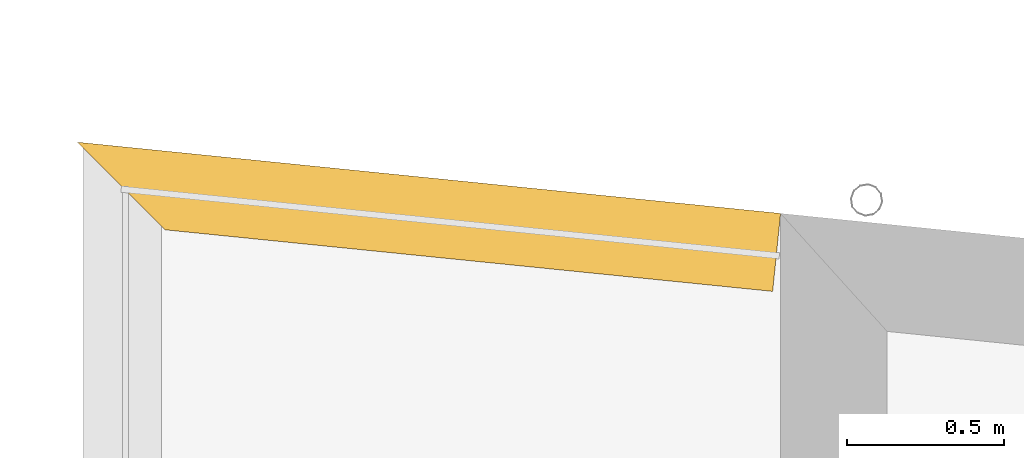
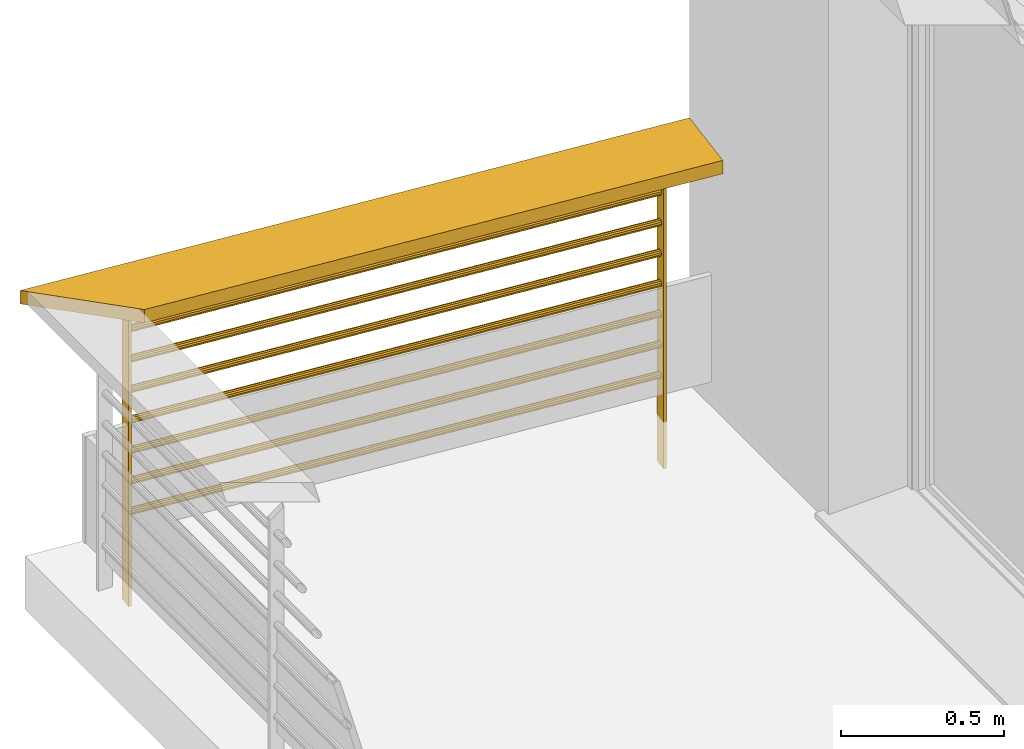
# One storey, part 106 of 164: 1 railing.
"""IFC2X3 building model written with IfcOpenShell, lengths in millimetres."""

from ifc_helpers import new_model, entity, si_unit, converted_unit, derived_unit, money_unit, direction, frame, origin_with_axes, place, context, subcontext, project, spatial, faceted_brep, type_object, element, save


model = new_model("IFC2X3")

# Units and contexts
model_context = context("Model", 3, precision=0.01, world=origin_with_axes(), true_north=direction((0.0, 1.0)))
body_context = subcontext(model_context, "Body", "Model", "MODEL_VIEW")
ifc_project = project(units=[si_unit("LENGTHUNIT", "METRE", prefix="MILLI"), si_unit("AREAUNIT", "SQUARE_METRE"), si_unit("VOLUMEUNIT", "CUBIC_METRE"), converted_unit("PLANEANGLEUNIT", "DEGREE", entity("IfcPlaneAngleMeasure", 0.0174532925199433), si_unit("PLANEANGLEUNIT", "RADIAN"), dimensions=[0, 0, 0, 0, 0, 0, 0]), money_unit("USD"), converted_unit("TIMEUNIT", "Year", entity("IfcTimeMeasure", 31557600.0), si_unit("TIMEUNIT", "SECOND"), dimensions=[0, 0, 1, 0, 0, 0, 0]), si_unit("MASSUNIT", "GRAM", prefix="KILO"), si_unit("THERMODYNAMICTEMPERATUREUNIT", "DEGREE_CELSIUS"), si_unit("LUMINOUSINTENSITYUNIT", "LUMEN"), si_unit("ENERGYUNIT", "JOULE", prefix="MEGA"), derived_unit("THERMALCONDUCTANCEUNIT", [(si_unit("POWERUNIT", "WATT"), 1), (si_unit("LENGTHUNIT", "METRE"), -1), (si_unit("THERMODYNAMICTEMPERATUREUNIT", "KELVIN"), -1)]), derived_unit("SPECIFICHEATCAPACITYUNIT", [(si_unit("ENERGYUNIT", "JOULE"), 1), (si_unit("MASSUNIT", "GRAM", prefix="KILO"), -1), (si_unit("THERMODYNAMICTEMPERATUREUNIT", "KELVIN"), -1)]), derived_unit("MASSDENSITYUNIT", [(si_unit("MASSUNIT", "GRAM", prefix="KILO"), 1), (si_unit("VOLUMEUNIT", "CUBIC_METRE"), -1)])], contexts=[model_context])

# Site, building, storey
site_placement = place(None, origin_with_axes())
site = spatial("IfcSite", under=ifc_project, at=site_placement, Name="Site", CompositionType="ELEMENT")
building_placement = place(site_placement, origin_with_axes())
building = spatial("IfcBuilding", under=site, at=building_placement, Name="Bâtiment", CompositionType="ELEMENT")
storey_placement = place(building_placement, frame((0.0, 0.0, 5750.0), z_axis=(0.0, 0.0, 1.0), x_axis=(1.0, 0.0, 0.0)))
storey = spatial("IfcBuildingStorey", under=building, at=storey_placement, Name="Etage1", CompositionType="ELEMENT", Elevation=5750.0)

# Railing
railing_type = type_object("IfcRailingType", Name="Cadre avec câble 01 20", PredefinedType="NOTDEFINED")
railing_placement = place(storey_placement, frame((2216031.546231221, -603908.0016091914, 0.0), z_axis=(0.0, 0.0, 1.0), x_axis=(0.9949030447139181, -0.1008361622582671, 0.0)))
element("IfcRailing", 1, at=railing_placement, inside=storey, type_object=railing_type, Name="Obj.-002", PredefinedType="NOTDEFINED", context=body_context, shape_type="Brep", body=[
    faceted_brep([(153.1959225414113, -125.0, 950.0), (-153.1959225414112, 125.0, 950.0), (2100.790227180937, 125.0, 950.0), (2100.790227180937, -125.0, 950.0), (153.1959225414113, -125.0, 1000.0), (-153.1959225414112, 125.0, 1000.0), (2100.790227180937, 125.0, 1000.0), (2100.790227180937, -125.0, 1000.0)], [[[0, 1, 2, 3]], [[1, 0, 4, 5]], [[1, 5, 6, 2]], [[3, 2, 6, 7]], [[0, 3, 7, 4]], [[5, 4, 7, 6]]]),
    faceted_brep([(145.0, -25.0, -176.0), (155.0, -25.0, -176.0), (155.0, -25.0, 950.0), (145.0, -25.0, 950.0), (145.0, 25.0, -176.0), (155.0, 25.0, -176.0), (155.0, 25.0, 950.0), (145.0, 25.0, 950.0)], [[[0, 1, 2, 3]], [[0, 4, 5, 1]], [[1, 5, 6, 2]], [[3, 2, 6, 7]], [[4, 0, 3, 7]], [[5, 4, 7, 6]]]),
    faceted_brep([(1945.790227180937, -25.0, -176.0), (1955.790227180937, -25.0, -176.0), (1955.790227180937, -25.0, 950.0), (1945.790227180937, -25.0, 950.0), (1945.790227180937, 25.0, -176.0), (1955.790227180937, 25.0, -176.0), (1955.790227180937, 25.0, 950.0), (1945.790227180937, 25.0, 950.0)], [[[0, 1, 2, 3]], [[0, 4, 5, 1]], [[1, 5, 6, 2]], [[3, 2, 6, 7]], [[4, 0, 3, 7]], [[5, 4, 7, 6]]]),
    faceted_brep([(155.0, 10.82531754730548, 156.25), (155.0, 12.5, 162.5), (1945.790227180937, 12.5, 162.5000000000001), (1945.790227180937, 10.82531754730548, 156.2500000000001), (155.0, 10.82531754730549, 168.75), (155.0, 6.249999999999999, 151.6746824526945), (155.0, 0.0, 150.0), (155.0, -6.250000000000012, 151.6746824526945), (155.0, -10.82531754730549, 156.25), (155.0, -12.5, 162.5), (155.0, -10.82531754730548, 168.75), (155.0, -6.249999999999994, 173.3253175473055), (155.0, 0.0, 175.0), (155.0, 6.250000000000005, 173.3253175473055), (1945.790227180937, 10.82531754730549, 168.7500000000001), (1945.790227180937, 6.250000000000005, 173.3253175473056), (1945.790227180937, 0.0, 175.0000000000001), (1945.790227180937, -6.249999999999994, 173.3253175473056), (1945.790227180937, -10.82531754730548, 168.7500000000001), (1945.790227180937, -12.5, 162.5000000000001), (1945.790227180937, -10.82531754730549, 156.2500000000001), (1945.790227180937, -6.250000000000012, 151.6746824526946), (1945.790227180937, 0.0, 150.0000000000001), (1945.790227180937, 6.249999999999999, 151.6746824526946)], [[[0, 1, 2, 3]], [[4, 1, 0, 5, 6, 7, 8, 9, 10, 11, 12, 13]], [[1, 4, 14, 2]], [[3, 2, 14, 15, 16, 17, 18, 19, 20, 21, 22, 23]], [[5, 0, 3, 23]], [[6, 5, 23, 22]], [[7, 6, 22, 21]], [[8, 7, 21, 20]], [[9, 8, 20, 19]], [[10, 9, 19, 18]], [[11, 10, 18, 17]], [[12, 11, 17, 16]], [[13, 12, 16, 15]], [[4, 13, 15, 14]]]),
    faceted_brep([(155.0, 10.82531754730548, 270.5357142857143), (155.0, 12.5, 276.7857142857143), (1945.790227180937, 12.5, 276.7857142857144), (1945.790227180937, 10.82531754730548, 270.5357142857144), (155.0, 10.82531754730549, 283.0357142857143), (155.0, 6.249999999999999, 265.9603967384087), (155.0, 0.0, 264.2857142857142), (155.0, -6.250000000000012, 265.9603967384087), (155.0, -10.82531754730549, 270.5357142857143), (155.0, -12.5, 276.7857142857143), (155.0, -10.82531754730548, 283.0357142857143), (155.0, -6.249999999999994, 287.6110318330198), (155.0, 0.0, 289.2857142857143), (155.0, 6.250000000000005, 287.6110318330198), (1945.790227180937, 10.82531754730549, 283.0357142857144), (1945.790227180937, 6.250000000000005, 287.6110318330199), (1945.790227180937, 0.0, 289.2857142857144), (1945.790227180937, -6.249999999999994, 287.6110318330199), (1945.790227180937, -10.82531754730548, 283.0357142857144), (1945.790227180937, -12.5, 276.7857142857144), (1945.790227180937, -10.82531754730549, 270.5357142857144), (1945.790227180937, -6.250000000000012, 265.9603967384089), (1945.790227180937, 0.0, 264.2857142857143), (1945.790227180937, 6.249999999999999, 265.9603967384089)], [[[0, 1, 2, 3]], [[4, 1, 0, 5, 6, 7, 8, 9, 10, 11, 12, 13]], [[1, 4, 14, 2]], [[3, 2, 14, 15, 16, 17, 18, 19, 20, 21, 22, 23]], [[5, 0, 3, 23]], [[6, 5, 23, 22]], [[7, 6, 22, 21]], [[8, 7, 21, 20]], [[9, 8, 20, 19]], [[10, 9, 19, 18]], [[11, 10, 18, 17]], [[12, 11, 17, 16]], [[13, 12, 16, 15]], [[4, 13, 15, 14]]]),
    faceted_brep([(155.0, 10.82531754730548, 384.8214285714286), (155.0, 12.5, 391.0714285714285), (1945.790227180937, 12.5, 391.0714285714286), (1945.790227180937, 10.82531754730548, 384.8214285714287), (155.0, 10.82531754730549, 397.3214285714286), (155.0, 6.249999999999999, 380.2461110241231), (155.0, 0.0, 378.5714285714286), (155.0, -6.250000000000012, 380.2461110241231), (155.0, -10.82531754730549, 384.8214285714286), (155.0, -12.5, 391.0714285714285), (155.0, -10.82531754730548, 397.3214285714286), (155.0, -6.249999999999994, 401.896746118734), (155.0, 0.0, 403.5714285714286), (155.0, 6.250000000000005, 401.896746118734), (1945.790227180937, 10.82531754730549, 397.3214285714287), (1945.790227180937, 6.250000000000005, 401.8967461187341), (1945.790227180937, 0.0, 403.5714285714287), (1945.790227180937, -6.249999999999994, 401.8967461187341), (1945.790227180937, -10.82531754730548, 397.3214285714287), (1945.790227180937, -12.5, 391.0714285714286), (1945.790227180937, -10.82531754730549, 384.8214285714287), (1945.790227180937, -6.250000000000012, 380.2461110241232), (1945.790227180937, 0.0, 378.5714285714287), (1945.790227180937, 6.249999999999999, 380.2461110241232)], [[[0, 1, 2, 3]], [[4, 1, 0, 5, 6, 7, 8, 9, 10, 11, 12, 13]], [[1, 4, 14, 2]], [[3, 2, 14, 15, 16, 17, 18, 19, 20, 21, 22, 23]], [[5, 0, 3, 23]], [[6, 5, 23, 22]], [[7, 6, 22, 21]], [[8, 7, 21, 20]], [[9, 8, 20, 19]], [[10, 9, 19, 18]], [[11, 10, 18, 17]], [[12, 11, 17, 16]], [[13, 12, 16, 15]], [[4, 13, 15, 14]]]),
    faceted_brep([(155.0, 10.82531754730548, 499.1071428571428), (155.0, 12.5, 505.3571428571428), (1945.790227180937, 12.5, 505.3571428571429), (1945.790227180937, 10.82531754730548, 499.1071428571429), (155.0, 10.82531754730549, 511.6071428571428), (155.0, 6.249999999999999, 494.5318253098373), (155.0, 0.0, 492.8571428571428), (155.0, -6.250000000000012, 494.5318253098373), (155.0, -10.82531754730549, 499.1071428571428), (155.0, -12.5, 505.3571428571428), (155.0, -10.82531754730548, 511.6071428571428), (155.0, -6.249999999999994, 516.1824604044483), (155.0, 0.0, 517.8571428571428), (155.0, 6.250000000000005, 516.1824604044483), (1945.790227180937, 10.82531754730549, 511.6071428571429), (1945.790227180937, 6.250000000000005, 516.1824604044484), (1945.790227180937, 0.0, 517.8571428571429), (1945.790227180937, -6.249999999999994, 516.1824604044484), (1945.790227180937, -10.82531754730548, 511.6071428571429), (1945.790227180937, -12.5, 505.3571428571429), (1945.790227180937, -10.82531754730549, 499.1071428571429), (1945.790227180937, -6.250000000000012, 494.5318253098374), (1945.790227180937, 0.0, 492.8571428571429), (1945.790227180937, 6.249999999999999, 494.5318253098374)], [[[0, 1, 2, 3]], [[4, 1, 0, 5, 6, 7, 8, 9, 10, 11, 12, 13]], [[1, 4, 14, 2]], [[3, 2, 14, 15, 16, 17, 18, 19, 20, 21, 22, 23]], [[5, 0, 3, 23]], [[6, 5, 23, 22]], [[7, 6, 22, 21]], [[8, 7, 21, 20]], [[9, 8, 20, 19]], [[10, 9, 19, 18]], [[11, 10, 18, 17]], [[12, 11, 17, 16]], [[13, 12, 16, 15]], [[4, 13, 15, 14]]]),
    faceted_brep([(155.0, 10.82531754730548, 613.3928571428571), (155.0, 12.5, 619.642857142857), (1945.790227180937, 12.5, 619.6428571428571), (1945.790227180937, 10.82531754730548, 613.3928571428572), (155.0, 10.82531754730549, 625.892857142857), (155.0, 6.249999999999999, 608.8175395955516), (155.0, 0.0, 607.1428571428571), (155.0, -6.250000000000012, 608.8175395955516), (155.0, -10.82531754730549, 613.3928571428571), (155.0, -12.5, 619.642857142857), (155.0, -10.82531754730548, 625.892857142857), (155.0, -6.249999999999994, 630.4681746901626), (155.0, 0.0, 632.1428571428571), (155.0, 6.250000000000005, 630.4681746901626), (1945.790227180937, 10.82531754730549, 625.8928571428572), (1945.790227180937, 6.250000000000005, 630.4681746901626), (1945.790227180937, 0.0, 632.1428571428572), (1945.790227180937, -6.249999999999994, 630.4681746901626), (1945.790227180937, -10.82531754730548, 625.8928571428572), (1945.790227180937, -12.5, 619.6428571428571), (1945.790227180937, -10.82531754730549, 613.3928571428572), (1945.790227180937, -6.250000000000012, 608.8175395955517), (1945.790227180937, 0.0, 607.1428571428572), (1945.790227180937, 6.249999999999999, 608.8175395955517)], [[[0, 1, 2, 3]], [[4, 1, 0, 5, 6, 7, 8, 9, 10, 11, 12, 13]], [[1, 4, 14, 2]], [[3, 2, 14, 15, 16, 17, 18, 19, 20, 21, 22, 23]], [[5, 0, 3, 23]], [[6, 5, 23, 22]], [[7, 6, 22, 21]], [[8, 7, 21, 20]], [[9, 8, 20, 19]], [[10, 9, 19, 18]], [[11, 10, 18, 17]], [[12, 11, 17, 16]], [[13, 12, 16, 15]], [[4, 13, 15, 14]]]),
    faceted_brep([(155.0, 10.82531754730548, 727.6785714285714), (155.0, 12.5, 733.9285714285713), (1945.790227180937, 12.5, 733.9285714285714), (1945.790227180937, 10.82531754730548, 727.6785714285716), (155.0, 10.82531754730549, 740.1785714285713), (155.0, 6.249999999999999, 723.1032538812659), (155.0, 0.0, 721.4285714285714), (155.0, -6.250000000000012, 723.1032538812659), (155.0, -10.82531754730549, 727.6785714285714), (155.0, -12.5, 733.9285714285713), (155.0, -10.82531754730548, 740.1785714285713), (155.0, -6.249999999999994, 744.7538889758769), (155.0, 0.0, 746.4285714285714), (155.0, 6.250000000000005, 744.7538889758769), (1945.790227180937, 10.82531754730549, 740.1785714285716), (1945.790227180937, 6.250000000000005, 744.753888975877), (1945.790227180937, 0.0, 746.4285714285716), (1945.790227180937, -6.249999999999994, 744.753888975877), (1945.790227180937, -10.82531754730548, 740.1785714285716), (1945.790227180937, -12.5, 733.9285714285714), (1945.790227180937, -10.82531754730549, 727.6785714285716), (1945.790227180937, -6.250000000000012, 723.103253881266), (1945.790227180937, 0.0, 721.4285714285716), (1945.790227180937, 6.249999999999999, 723.103253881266)], [[[0, 1, 2, 3]], [[4, 1, 0, 5, 6, 7, 8, 9, 10, 11, 12, 13]], [[1, 4, 14, 2]], [[3, 2, 14, 15, 16, 17, 18, 19, 20, 21, 22, 23]], [[5, 0, 3, 23]], [[6, 5, 23, 22]], [[7, 6, 22, 21]], [[8, 7, 21, 20]], [[9, 8, 20, 19]], [[10, 9, 19, 18]], [[11, 10, 18, 17]], [[12, 11, 17, 16]], [[13, 12, 16, 15]], [[4, 13, 15, 14]]]),
    faceted_brep([(155.0, 10.82531754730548, 841.9642857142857), (155.0, 12.5, 848.2142857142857), (1945.790227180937, 12.5, 848.2142857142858), (1945.790227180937, 10.82531754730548, 841.9642857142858), (155.0, 10.82531754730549, 854.4642857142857), (155.0, 6.249999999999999, 837.3889681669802), (155.0, 0.0, 835.7142857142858), (155.0, -6.250000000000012, 837.3889681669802), (155.0, -10.82531754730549, 841.9642857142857), (155.0, -12.5, 848.2142857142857), (155.0, -10.82531754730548, 854.4642857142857), (155.0, -6.249999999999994, 859.0396032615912), (155.0, 0.0, 860.7142857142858), (155.0, 6.250000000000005, 859.0396032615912), (1945.790227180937, 10.82531754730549, 854.4642857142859), (1945.790227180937, 6.250000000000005, 859.0396032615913), (1945.790227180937, 0.0, 860.7142857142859), (1945.790227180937, -6.249999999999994, 859.0396032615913), (1945.790227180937, -10.82531754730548, 854.4642857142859), (1945.790227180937, -12.5, 848.2142857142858), (1945.790227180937, -10.82531754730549, 841.9642857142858), (1945.790227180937, -6.250000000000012, 837.3889681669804), (1945.790227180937, 0.0, 835.7142857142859), (1945.790227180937, 6.249999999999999, 837.3889681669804)], [[[0, 1, 2, 3]], [[4, 1, 0, 5, 6, 7, 8, 9, 10, 11, 12, 13]], [[1, 4, 14, 2]], [[3, 2, 14, 15, 16, 17, 18, 19, 20, 21, 22, 23]], [[5, 0, 3, 23]], [[6, 5, 23, 22]], [[7, 6, 22, 21]], [[8, 7, 21, 20]], [[9, 8, 20, 19]], [[10, 9, 19, 18]], [[11, 10, 18, 17]], [[12, 11, 17, 16]], [[13, 12, 16, 15]], [[4, 13, 15, 14]]]),
])

save(model, "model.ifc")
